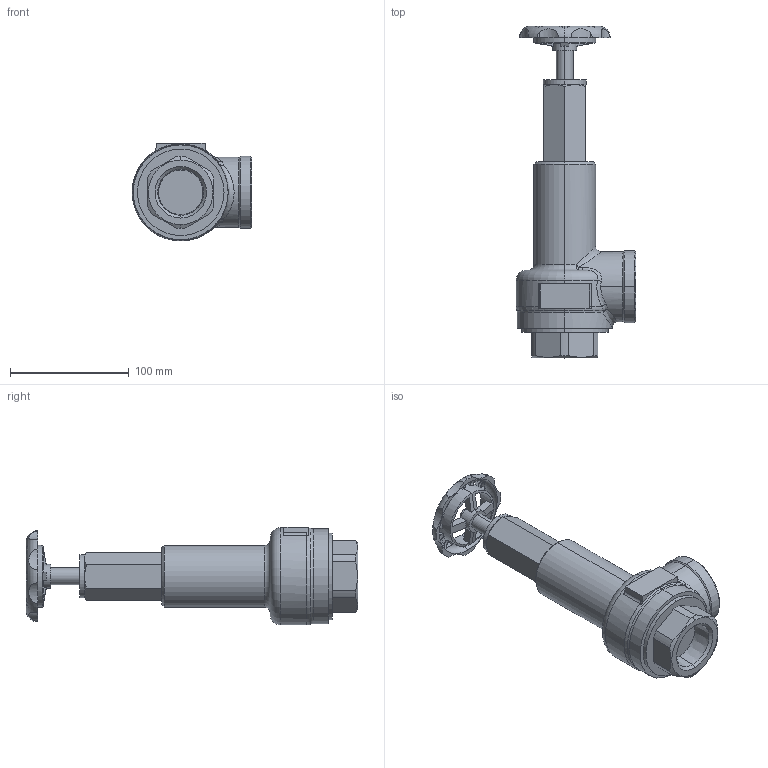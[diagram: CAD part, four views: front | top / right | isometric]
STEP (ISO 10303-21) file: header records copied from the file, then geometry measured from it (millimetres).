
FILE_DESCRIPTION (( 'STEP AP203' ), '1' );
FILE_NAME ('AL-150TR 40A.STEP', '2026-01-08T01:13:18', ( '' ), ( '' ), 'SwSTEP 2.0', 'SolidWorks 2024', '' );
FILE_SCHEMA (( 'CONFIG_CONTROL_DESIGN' ));
Length unit declared in the file: millimetre
Products named in the file (1): AL-150TR 40A
Bounding box: 101 x 280 x 82.5 mm (x, y, z)
Volume: 648416.7 mm3; surface area: 73488.3 mm2
Topology: 1 solids, 1 shells, 199 faces, 569 edges, 356 vertices
Faces by surface type: plane 77, cylinder 62, cone 30, torus 16, bspline 10, sphere 4
Entity records: 8748 total; most frequent: CARTESIAN_POINT 3629, ORIENTED_EDGE 1134, DIRECTION 987, EDGE_CURVE 567, AXIS2_PLACEMENT_3D 398, VERTEX_POINT 356, EDGE_LOOP 225, CIRCLE 208
